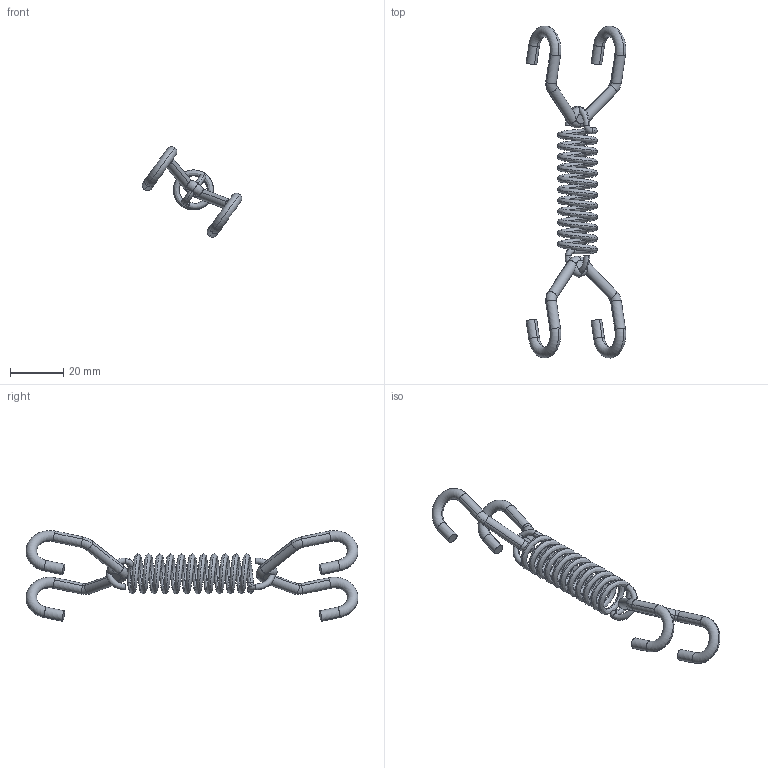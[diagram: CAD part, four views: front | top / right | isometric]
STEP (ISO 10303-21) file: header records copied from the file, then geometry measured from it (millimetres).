
FILE_DESCRIPTION (( 'STEP AP214' ), '1' );
FILE_NAME ('IRB365_1.5-1300_OmniCore_rev00_SPRING_UNIT_1_CAD.step', '2025-09-09T11:52:24', ( '' ), ( '' ), 'SwSTEP 2.0', 'SolidWorks 2024', '' );
FILE_SCHEMA (( 'AUTOMOTIVE_DESIGN' ));
Length unit declared in the file: millimetre
Products named in the file (1): IRB365_1.5-1300_OmniCore_rev00_SPRING_UNIT_1_CAD
Bounding box: 37.38 x 124.54 x 34.04 mm (x, y, z)
Volume: 5107.6 mm3; surface area: 6623.5 mm2
Topology: 1 solids, 1 shells, 74 faces, 182 edges, 110 vertices
Faces by surface type: torus 38, cylinder 24, plane 10, bspline 2
Entity records: 5098 total; most frequent: CARTESIAN_POINT 2482, DIRECTION 422, ORIENTED_EDGE 364, AXIS2_PLACEMENT_3D 199, EDGE_CURVE 182, CIRCLE 126, VERTEX_POINT 110, UNCERTAINTY_MEASURE_WITH_UNIT 76
